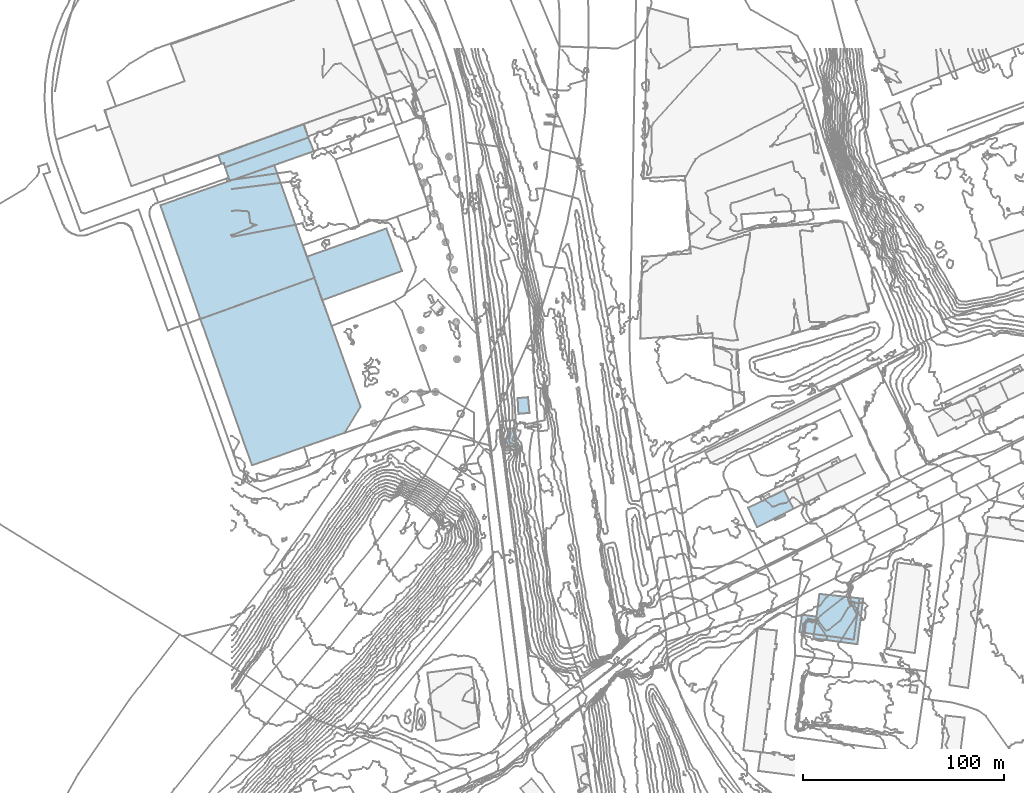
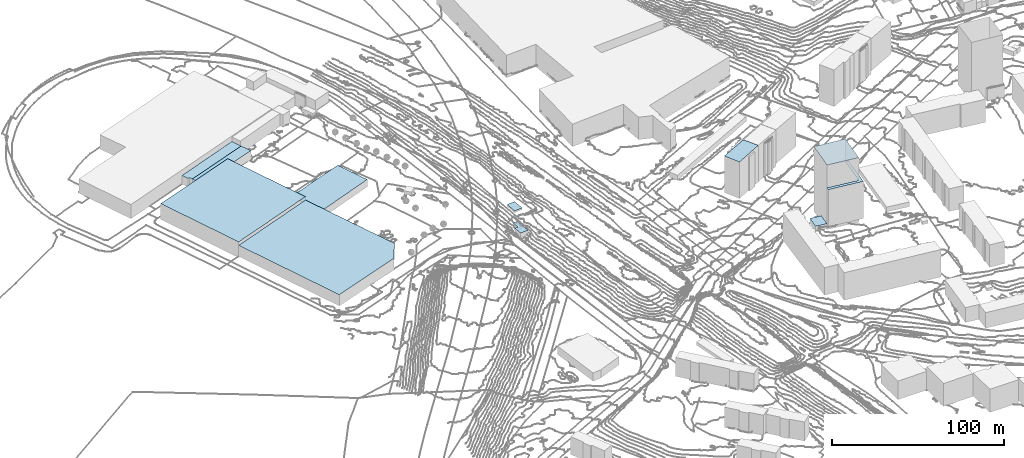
# Not in any storey, part 87 of 419: 11 roofs.
"""IFC2X3 model written with IfcOpenShell, lengths in metres."""

from ifc_helpers import new_model, si_unit, frame, origin_with_axes, place, context, subcontext, project, faceted_brep, element, save


model = new_model("IFC2X3")

# Units and contexts
model_context = context("Model", 3, precision=1e-05, world=origin_with_axes())
body_context = subcontext(model_context, "Body", "Model", "MODEL_VIEW")
ifc_project = project(units=[si_unit("AREAUNIT", "SQUARE_METRE"), si_unit("LENGTHUNIT", "METRE")], contexts=[model_context])

# Roofs
roof_1_placement = place(None, frame((37.2920204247, 929.2976909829, 21.1599998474), z_axis=(0.0, 0.0, 1.0), x_axis=(1.0, 0.0, 0.0)))
element("IfcRoof", 1, at=roof_1_placement, Name="Toiture 0", ShapeType="NOTDEFINED", context=body_context, shape_type="Brep", body=[
    faceted_brep([(39.4, 14.0, 5.1400001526), (0.0, 0.0, 5.1400001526), (7.5, -21.7000000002, 5.1400001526), (47.1000000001, -7.1000000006, 5.1400001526)], [[[0, 1, 2]], [[2, 3, 0]]]),
])
roof_2_placement = place(None, frame((141.7920204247, 858.9976909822, 25.4720998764), z_axis=(0.0, 0.0, 1.0), x_axis=(1.0, 0.0, 0.0)))
element("IfcRoof", 2, at=roof_2_placement, Name="Toiture 0", ShapeType="NOTDEFINED", context=body_context, shape_type="Brep", body=[
    faceted_brep([(0.0, 0.0, 1.2279001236), (0.4, -7.7999999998, 1.2279001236), (5.9, -7.2999999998, 1.2279001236), (5.2000000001, 0.5, 1.2279001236)], [[[0, 1, 2]], [[2, 3, 0]]]),
])
roof_3_placement = place(None, frame((-3.4079795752, 973.6976909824, 19.906999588), z_axis=(0.0, 0.0, 1.0), x_axis=(1.0, 0.0, 0.0)))
element("IfcRoof", 3, at=roof_3_placement, Name="Toiture 0", ShapeType="NOTDEFINED", context=body_context, shape_type="Brep", body=[
    faceted_brep([(1.2, -7.2000000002, 6.193000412), (44.0, 8.0, 6.193000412), (41.3, 14.7999999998, 6.193000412), (0.0, 0.0, 6.193000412), (1.7, -5.2000000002, 6.193000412), (0.6, -5.5999999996, 6.193000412)], [[[0, 1, 2]], [[2, 3, 4]], [[4, 5, 0]], [[0, 2, 4]]]),
])
roof_4_placement = place(None, frame((-6.8079795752, 979.7976909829, 20.1100006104), z_axis=(0.0, 0.0, 1.0), x_axis=(1.0, 0.0, 0.0)))
element("IfcRoof", 4, at=roof_4_placement, Name="Toiture 0", ShapeType="NOTDEFINED", context=body_context, shape_type="Brep", body=[
    faceted_brep([(3.4, -6.1000000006, 5.9899993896), (44.7000000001, 8.6999999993, 5.9899993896), (42.4, 15.3999999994, 5.9899993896), (0.0, 0.0, 5.9899993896), (1.5, -4.4000000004, 5.9899993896), (2.7000000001, -4.0, 5.9899993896)], [[[0, 1, 2]], [[2, 3, 4]], [[5, 0, 2]], [[2, 4, 5]]]),
])
roof_5_placement = place(None, frame((281.6920204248, 742.7976909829, 29.0879993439), z_axis=(0.0, 0.0, 1.0), x_axis=(1.0, 0.0, 0.0)))
element("IfcRoof", 5, at=roof_5_placement, Name="Toiture 0", ShapeType="NOTDEFINED", context=body_context, shape_type="Brep", body=[
    faceted_brep([(8.5, 7.6999999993, 3.6120006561), (1.3, 8.5999999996, 3.6120006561), (0.0, 0.0, 3.6120006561), (7.2000000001, -1.0, 3.6120006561)], [[[0, 1, 2]], [[2, 3, 0]]]),
])
roof_6_placement = place(None, frame((-15.7079795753, 898.3976909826, 21.1100006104), z_axis=(0.0, 0.0, 1.0), x_axis=(1.0, 0.0, 0.0)))
element("IfcRoof", 6, at=roof_6_placement, Name="Toiture 0", ShapeType="NOTDEFINED", context=body_context, shape_type="Brep", body=[
    faceted_brep([(79.5, -43.5, 7.8899993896), (56.6000000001, 20.4000000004, 7.8899993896), (0.0, 0.0, 7.8899993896), (25.6000000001, -72.7000000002, 7.8899993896), (71.5, -56.5999999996, 7.8899993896)], [[[0, 1, 2]], [[2, 3, 4]], [[4, 0, 2]]]),
])
roof_7_placement = place(None, frame((-35.6079795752, 954.7976909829, 20.2473999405), z_axis=(0.0, 0.0, 1.0), x_axis=(1.0, 0.0, 0.0)))
element("IfcRoof", 7, at=roof_7_placement, Name="Toiture 0", ShapeType="NOTDEFINED", context=body_context, shape_type="Brep", body=[
    faceted_brep([(56.6, 19.8999999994, 11.1526000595), (0.0, 0.0, 11.1526000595), (19.8999999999, -56.4000000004, 11.1526000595), (76.5, -36.0, 11.1526000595)], [[[0, 1, 2]], [[2, 3, 0]]]),
])
roof_8_placement = place(None, frame((135.2920204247, 838.7976909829, 21.090999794), z_axis=(0.0, 0.0, 1.0), x_axis=(1.0, 0.0, 0.0)))
element("IfcRoof", 8, at=roof_8_placement, Name="Toiture 0", ShapeType="NOTDEFINED", context=body_context, shape_type="Brep", body=[
    faceted_brep([(0.0, 0.0, 3.309000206), (0.5, -5.9000000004, 3.309000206), (5.7000000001, -5.5, 3.309000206), (4.9, 5.1999999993, 3.309000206), (1.8, 5.0, 3.309000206), (2.1000000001, 0.1999999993, 3.309000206)], [[[0, 1, 2]], [[2, 3, 4]], [[5, 0, 2]], [[2, 4, 5]]]),
])
roof_9_placement = place(None, frame((256.1920204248, 804.5976909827, 28.2029998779), z_axis=(0.0, 0.0, 1.0), x_axis=(1.0, 0.0, 0.0)))
element("IfcRoof", 9, at=roof_9_placement, Name="Toiture 0", ShapeType="NOTDEFINED", context=body_context, shape_type="Brep", body=[
    faceted_brep([(22.6, -0.5, 25.8970001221), (17.9, 8.7999999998, 25.8970001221), (0.0, 0.0, 25.8970001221), (4.6, -9.7000000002, 25.8970001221)], [[[0, 1, 2]], [[2, 3, 0]]]),
])
roof_10_placement = place(None, frame((288.6920204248, 739.6976909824, 31.9331994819), z_axis=(0.0, 0.0, 1.0), x_axis=(1.0, 0.0, 0.0)))
element("IfcRoof", 10, at=roof_10_placement, Name="Toiture 0", ShapeType="NOTDEFINED", context=body_context, shape_type="Brep", body=[
    faceted_brep([(24.7000000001, 19.7999999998, 26.2668005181), (22.8, 19.9000000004, 26.2668005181), (20.0, -0.5999999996, 26.2668005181), (0.2000000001, 2.1000000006, 26.2668005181), (0.0, 0.0, 26.2668005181), (21.8, -2.8999999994, 26.2668005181)], [[[0, 1, 2]], [[2, 3, 4]], [[5, 0, 2]], [[2, 4, 5]]]),
])
roof_11_placement = place(None, frame((288.8920204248, 741.7976909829, 28.4980007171), z_axis=(0.0, 0.0, 1.0), x_axis=(1.0, 0.0, 0.0)))
element("IfcRoof", 11, at=roof_11_placement, Name="Toiture 0", ShapeType="NOTDEFINED", context=body_context, shape_type="Brep", body=[
    faceted_brep([(1.2999999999, 8.6999999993, 45.8019992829), (0.0, 0.0, 45.8019992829), (19.7999999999, -2.7000000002, 45.8019992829), (22.6, 17.7999999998, 45.8019992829), (2.7, 20.0, 45.8019992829)], [[[0, 1, 2]], [[2, 3, 4]], [[4, 0, 2]]]),
])

save(model, "model.ifc")
